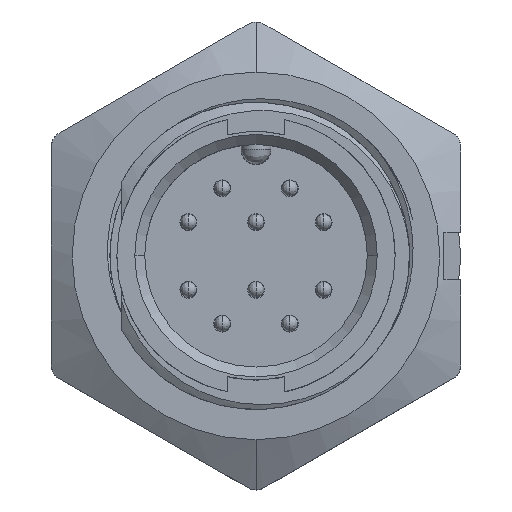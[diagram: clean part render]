
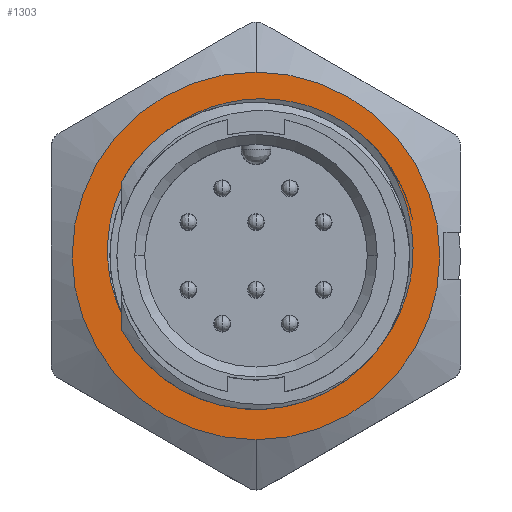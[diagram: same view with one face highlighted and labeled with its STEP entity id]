
A CAD part, top view. The second image highlights one B-rep face of the part: STEP entity #1303.
In plain terms, the highlighted planar face has unit normal (0, 0, 1).
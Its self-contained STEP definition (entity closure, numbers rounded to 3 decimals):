
#150 = CARTESIAN_POINT ( 'NONE',  ( -7.483, 1.038, -6.1 ) ) ;
#239 = CARTESIAN_POINT ( 'NONE',  ( -5.289, 5.656, -6.1 ) ) ;
#334 = CARTESIAN_POINT ( 'NONE',  ( -5.876, 4.994, -6.1 ) ) ;
#522 = CARTESIAN_POINT ( 'NONE',  ( 1.145, -7.467, -6.1 ) ) ;
#912 = CARTESIAN_POINT ( 'NONE',  ( 5.365, 6.07, -6.1 ) ) ;
#945 = CARTESIAN_POINT ( 'NONE',  ( -2.967, -6.725, -6.1 ) ) ;
#999 = CARTESIAN_POINT ( 'NONE',  ( 5.576, 5.885, -6.1 ) ) ;
#1079 = CARTESIAN_POINT ( 'NONE',  ( 7.06, 3.95, -6.1 ) ) ;
#1303 = ADVANCED_FACE ( 'NONE', ( #12104, #17572 ), #17937, .T. ) ;
#1334 = CARTESIAN_POINT ( 'NONE',  ( -4.494, -5.834, -6.1 ) ) ;
#1550 = EDGE_CURVE ( 'NONE', #16769, #14123, #4083, .T. ) ;
#1568 = CARTESIAN_POINT ( 'NONE',  ( -3.134, 7.185, -6.1 ) ) ;
#1738 = ORIENTED_EDGE ( 'NONE', *, *, #16368, .T. ) ;
#2038 = CARTESIAN_POINT ( 'NONE',  ( 7.786, -1.344, -6.1 ) ) ;
#2390 = VERTEX_POINT ( 'NONE', #16172 ) ;
#2559 = CARTESIAN_POINT ( 'NONE',  ( -6.497, -3.464, -6.1 ) ) ;
#2967 = CARTESIAN_POINT ( 'NONE',  ( 1.237, 7.899, -6.1 ) ) ;
#3157 = CARTESIAN_POINT ( 'NONE',  ( 3.618, -6.74, -6.1 ) ) ;
#3249 = CARTESIAN_POINT ( 'NONE',  ( -2.216, -7.089, -6.1 ) ) ;
#3772 = CARTESIAN_POINT ( 'NONE',  ( -3.938, -6.207, -6.1 ) ) ;
#3899 = CARTESIAN_POINT ( 'NONE',  ( 7.879, 1.35, -6.1 ) ) ;
#4037 = CARTESIAN_POINT ( 'NONE',  ( -4.84, -5.549, -6.1 ) ) ;
#4083 = B_SPLINE_CURVE_WITH_KNOTS ( 'NONE', 3,
 ( #6836, #11131, #6744, #11222, #3772, #14050, #1334, #4037, #18171, #5368, #16872, #12444, #12727, #12541, #2559, #15566 ),
 .UNSPECIFIED., .F., .F.,
 ( 4, 1, 2, 2, 2, 1, 2, 2, 4 ),
 ( 0., 0.125, 0.188, 0.25, 0.5, 0.625, 0.688, 0.75, 1. ),
 .UNSPECIFIED. ) ;
#4462 = CARTESIAN_POINT ( 'NONE',  ( 5.365, 6.07, -6.1 ) ) ;
#4746 = VERTEX_POINT ( 'NONE', #6180 ) ;
#4831 = CARTESIAN_POINT ( 'NONE',  ( 5.732, -5.207, -6.1 ) ) ;
#4942 = AXIS2_PLACEMENT_3D ( 'NONE', #18014, #16431, #10785 ) ;
#5017 = DIRECTION ( 'NONE',  ( 0., 0., 1. ) ) ;
#5368 = CARTESIAN_POINT ( 'NONE',  ( -5.548, -4.83, -6.1 ) ) ;
#5679 = DIRECTION ( 'NONE',  ( 0., 0., -1. ) ) ;
#5761 = CARTESIAN_POINT ( 'NONE',  ( 0., 9.25, -6.1 ) ) ;
#5954 = CARTESIAN_POINT ( 'NONE',  ( -7.308, -1.502, -6.1 ) ) ;
#6041 = CARTESIAN_POINT ( 'NONE',  ( -7.058, -2.317, -6.1 ) ) ;
#6180 = CARTESIAN_POINT ( 'NONE',  ( 5.992, 5.451, -6.1 ) ) ;
#6497 = CARTESIAN_POINT ( 'NONE',  ( 0., 0., -6.1 ) ) ;
#6511 = CARTESIAN_POINT ( 'NONE',  ( 5.797, 5.667, -6.1 ) ) ;
#6602 = B_SPLINE_CURVE_WITH_KNOTS ( 'NONE', 3,
 ( #912, #10718, #999, #6511, #16551, #8183 ),
 .UNSPECIFIED., .F., .F.,
 ( 4, 2, 4 ),
 ( 0., 0.5, 1. ),
 .UNSPECIFIED. ) ;
#6744 = CARTESIAN_POINT ( 'NONE',  ( -3.465, -6.489, -6.1 ) ) ;
#6836 = CARTESIAN_POINT ( 'NONE',  ( -2.967, -6.725, -6.1 ) ) ;
#7349 = CARTESIAN_POINT ( 'NONE',  ( -1.455, 7.766, -6.1 ) ) ;
#7529 = DIRECTION ( 'NONE',  ( 1., 0., 0. ) ) ;
#7890 = EDGE_CURVE ( 'NONE', #16769, #4746, #15252, .T. ) ;
#7989 = CARTESIAN_POINT ( 'NONE',  ( 6.588, 4.749, -6.1 ) ) ;
#8183 = CARTESIAN_POINT ( 'NONE',  ( 5.992, 5.451, -6.1 ) ) ;
#8646 = CARTESIAN_POINT ( 'NONE',  ( -3.918, 6.752, -6.1 ) ) ;
#8804 = CIRCLE ( 'NONE', #16300, 9.25 ) ;
#9527 = ORIENTED_EDGE ( 'NONE', *, *, #17911, .F. ) ;
#10057 = CARTESIAN_POINT ( 'NONE',  ( 4.655, 6.655, -6.1 ) ) ;
#10087 = B_SPLINE_CURVE_WITH_KNOTS ( 'NONE', 3,
 ( #4462, #10057, #15785, #13150, #2967, #11549, #7349, #1568, #8646, #239, #334, #12956, #13058, #150, #10155, #5954, #6041, #11644 ),
 .UNSPECIFIED., .F., .F.,
 ( 4, 2, 2, 2, 2, 2, 2, 2, 4 ),
 ( 0., 0.125, 0.25, 0.375, 0.5, 0.625, 0.75, 0.875, 1. ),
 .UNSPECIFIED. ) ;
#10155 = CARTESIAN_POINT ( 'NONE',  ( -7.521, 0.176, -6.1 ) ) ;
#10249 = CARTESIAN_POINT ( 'NONE',  ( 2.813, -7.078, -6.1 ) ) ;
#10519 = CARTESIAN_POINT ( 'NONE',  ( 6.808, -3.822, -6.1 ) ) ;
#10675 = CARTESIAN_POINT ( 'NONE',  ( -6.682, -3.063, -6.1 ) ) ;
#10718 = CARTESIAN_POINT ( 'NONE',  ( 5.468, 5.983, -6.1 ) ) ;
#10785 = DIRECTION ( 'NONE',  ( -1., 0., 0. ) ) ;
#10797 = CARTESIAN_POINT ( 'NONE',  ( 7.921, -0.448, -6.1 ) ) ;
#10981 = CARTESIAN_POINT ( 'NONE',  ( 5.992, 5.451, -6.1 ) ) ;
#11131 = CARTESIAN_POINT ( 'NONE',  ( -3.169, -6.635, -6.1 ) ) ;
#11222 = CARTESIAN_POINT ( 'NONE',  ( -3.75, -6.322, -6.1 ) ) ;
#11357 = DIRECTION ( 'NONE',  ( -1., 0., 0. ) ) ;
#11549 = CARTESIAN_POINT ( 'NONE',  ( -0.561, 7.913, -6.1 ) ) ;
#11644 = CARTESIAN_POINT ( 'NONE',  ( -6.682, -3.063, -6.1 ) ) ;
#11751 = EDGE_CURVE ( 'NONE', #2390, #14123, #10087, .T. ) ;
#12104 = FACE_BOUND ( 'NONE', #16688, .T. ) ;
#12444 = CARTESIAN_POINT ( 'NONE',  ( -5.895, -4.391, -6.1 ) ) ;
#12541 = CARTESIAN_POINT ( 'NONE',  ( -6.279, -3.846, -6.1 ) ) ;
#12727 = CARTESIAN_POINT ( 'NONE',  ( -5.963, -4.299, -6.1 ) ) ;
#12956 = CARTESIAN_POINT ( 'NONE',  ( -6.791, 3.521, -6.1 ) ) ;
#13058 = CARTESIAN_POINT ( 'NONE',  ( -7.119, 2.711, -6.1 ) ) ;
#13150 = CARTESIAN_POINT ( 'NONE',  ( 2.14, 7.737, -6.1 ) ) ;
#13205 = EDGE_LOOP ( 'NONE', ( #13657, #9527 ) ) ;
#13339 = CARTESIAN_POINT ( 'NONE',  ( -2.967, -6.725, -6.1 ) ) ;
#13657 = ORIENTED_EDGE ( 'NONE', *, *, #17642, .F. ) ;
#13888 = CARTESIAN_POINT ( 'NONE',  ( 7.706, 2.251, -6.1 ) ) ;
#14050 = CARTESIAN_POINT ( 'NONE',  ( -4.029, -6.148, -6.1 ) ) ;
#14123 = VERTEX_POINT ( 'NONE', #10675 ) ;
#14277 = CARTESIAN_POINT ( 'NONE',  ( 0., 0., -6.1 ) ) ;
#14672 = CARTESIAN_POINT ( 'NONE',  ( -1.397, -7.328, -6.1 ) ) ;
#14860 = CARTESIAN_POINT ( 'NONE',  ( 7.228, -3.031, -6.1 ) ) ;
#14959 = CARTESIAN_POINT ( 'NONE',  ( 0.283, -7.518, -6.1 ) ) ;
#15252 = B_SPLINE_CURVE_WITH_KNOTS ( 'NONE', 3,
 ( #13339, #3249, #14672, #14959, #522, #10249, #3157, #17664, #4831, #10519, #14860, #2038, #10797, #3899, #13888, #1079, #7989, #10981 ),
 .UNSPECIFIED., .F., .F.,
 ( 4, 2, 2, 2, 2, 2, 2, 2, 4 ),
 ( 0., 0.125, 0.25, 0.375, 0.5, 0.625, 0.75, 0.875, 1. ),
 .UNSPECIFIED. ) ;
#15566 = CARTESIAN_POINT ( 'NONE',  ( -6.682, -3.063, -6.1 ) ) ;
#15665 = VERTEX_POINT ( 'NONE', #5761 ) ;
#15785 = CARTESIAN_POINT ( 'NONE',  ( 3.849, 7.115, -6.1 ) ) ;
#16172 = CARTESIAN_POINT ( 'NONE',  ( 5.365, 6.07, -6.1 ) ) ;
#16300 = AXIS2_PLACEMENT_3D ( 'NONE', #14277, #5679, #11357 ) ;
#16368 = EDGE_CURVE ( 'NONE', #2390, #4746, #6602, .T. ) ;
#16431 = DIRECTION ( 'NONE',  ( 0., 0., -1. ) ) ;
#16551 = CARTESIAN_POINT ( 'NONE',  ( 5.899, 5.559, -6.1 ) ) ;
#16601 = VERTEX_POINT ( 'NONE', #17567 ) ;
#16688 = EDGE_LOOP ( 'NONE', ( #17640, #18346, #1738, #16924 ) ) ;
#16769 = VERTEX_POINT ( 'NONE', #945 ) ;
#16872 = CARTESIAN_POINT ( 'NONE',  ( -5.759, -4.569, -6.1 ) ) ;
#16924 = ORIENTED_EDGE ( 'NONE', *, *, #7890, .F. ) ;
#17204 = CIRCLE ( 'NONE', #4942, 9.25 ) ;
#17567 = CARTESIAN_POINT ( 'NONE',  ( 0., -9.25, -6.1 ) ) ;
#17572 = FACE_OUTER_BOUND ( 'NONE', #13205, .T. ) ;
#17633 = AXIS2_PLACEMENT_3D ( 'NONE', #6497, #5017, #7529 ) ;
#17640 = ORIENTED_EDGE ( 'NONE', *, *, #1550, .T. ) ;
#17642 = EDGE_CURVE ( 'NONE', #16601, #15665, #8804, .T. ) ;
#17664 = CARTESIAN_POINT ( 'NONE',  ( 5.077, -5.803, -6.1 ) ) ;
#17911 = EDGE_CURVE ( 'NONE', #15665, #16601, #17204, .T. ) ;
#17937 = PLANE ( 'NONE',  #17633 ) ;
#18014 = CARTESIAN_POINT ( 'NONE',  ( 0., 0., -6.1 ) ) ;
#18171 = CARTESIAN_POINT ( 'NONE',  ( -5.32, -5.077, -6.1 ) ) ;
#18346 = ORIENTED_EDGE ( 'NONE', *, *, #11751, .F. ) ;
